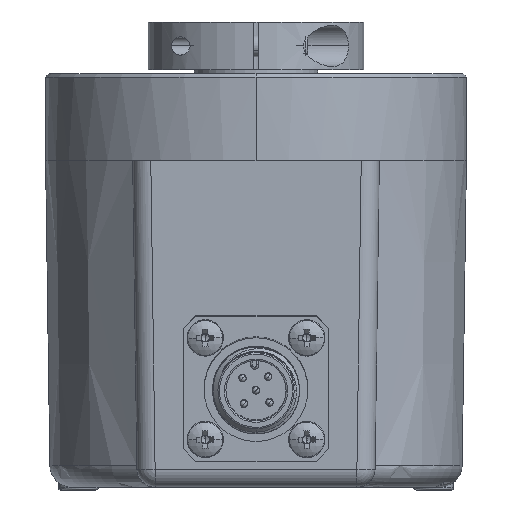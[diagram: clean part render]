
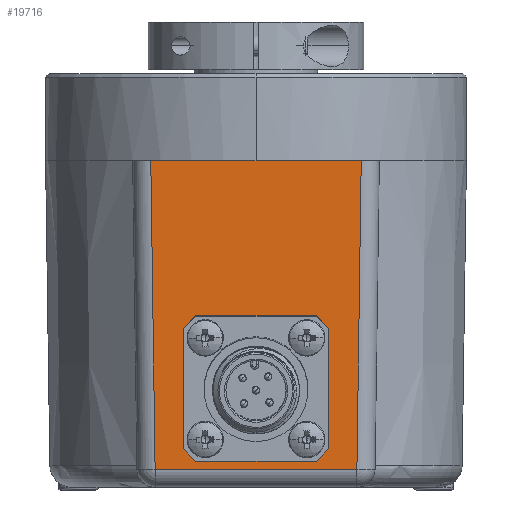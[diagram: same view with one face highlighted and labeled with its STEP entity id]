
A CAD part, front view. The second image highlights one B-rep face of the part: STEP entity #19716.
In plain terms, the highlighted planar face has unit normal (0, -1, -0.014).
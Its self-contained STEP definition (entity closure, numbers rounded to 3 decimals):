
#37 = DIRECTION ( 'NONE',  ( 1., 0., 0. ) ) ;
#128 = CARTESIAN_POINT ( 'NONE',  ( 0., -29., 45. ) ) ;
#439 = EDGE_LOOP ( 'NONE', ( #2445, #11095, #12852, #18333, #12904 ) ) ;
#792 = CARTESIAN_POINT ( 'NONE',  ( 13.906, -28.406, 2.465 ) ) ;
#794 = DIRECTION ( 'NONE',  ( 0.707, -0.01, 0.707 ) ) ;
#1043 = ORIENTED_EDGE ( 'NONE', *, *, #20172, .T. ) ;
#1045 = CARTESIAN_POINT ( 'NONE',  ( 10., -28.446, 5.303 ) ) ;
#1386 = ORIENTED_EDGE ( 'NONE', *, *, #23471, .F. ) ;
#1487 = VECTOR ( 'NONE', #24620, 1000. ) ;
#1782 = CARTESIAN_POINT ( 'NONE',  ( 8.3, -28.701, 23.602 ) ) ;
#1830 = FACE_OUTER_BOUND ( 'NONE', #439, .T. ) ;
#1937 = ORIENTED_EDGE ( 'NONE', *, *, #21678, .F. ) ;
#2445 = ORIENTED_EDGE ( 'NONE', *, *, #13074, .F. ) ;
#2453 = CARTESIAN_POINT ( 'NONE',  ( -14.494, -28.994, 44.56 ) ) ;
#3132 = CARTESIAN_POINT ( 'NONE',  ( 17., -28.406, 2.465 ) ) ;
#3551 = LINE ( 'NONE', #1782, #14294 ) ;
#3634 = ORIENTED_EDGE ( 'NONE', *, *, #23362, .F. ) ;
#3694 = DIRECTION ( 'NONE',  ( 0., -0.014, 1. ) ) ;
#3786 = CARTESIAN_POINT ( 'NONE',  ( 10., -28.446, 5.303 ) ) ;
#3914 = AXIS2_PLACEMENT_3D ( 'NONE', #19315, #5745, #13504 ) ;
#3974 = VERTEX_POINT ( 'NONE', #19939 ) ;
#3996 = VECTOR ( 'NONE', #8913, 1000. ) ;
#4722 = LINE ( 'NONE', #10236, #15638 ) ;
#5185 = VECTOR ( 'NONE', #9125, 1000. ) ;
#5252 = LINE ( 'NONE', #19192, #5185 ) ;
#5523 = LINE ( 'NONE', #20852, #1487 ) ;
#5745 = DIRECTION ( 'NONE',  ( 0., -1., -0.014 ) ) ;
#5850 = FACE_BOUND ( 'NONE', #16768, .T. ) ;
#5891 = DIRECTION ( 'NONE',  ( 1., 0., 0. ) ) ;
#5965 = VECTOR ( 'NONE', #5891, 1000. ) ;
#6253 = VERTEX_POINT ( 'NONE', #128 ) ;
#7311 = VERTEX_POINT ( 'NONE', #1045 ) ;
#7538 = VECTOR ( 'NONE', #794, 1000. ) ;
#7566 = DIRECTION ( 'NONE',  ( -1., 0., 0. ) ) ;
#7586 = LINE ( 'NONE', #21393, #24849 ) ;
#7652 = CARTESIAN_POINT ( 'NONE',  ( -10., -28.446, 5.303 ) ) ;
#7752 = VERTEX_POINT ( 'NONE', #12824 ) ;
#7809 = CARTESIAN_POINT ( 'NONE',  ( -8.3, -28.422, 3.604 ) ) ;
#8490 = DIRECTION ( 'NONE',  ( 0.014, -0.014, 1. ) ) ;
#8656 = VERTEX_POINT ( 'NONE', #20253 ) ;
#8790 = VECTOR ( 'NONE', #21270, 1000. ) ;
#8913 = DIRECTION ( 'NONE',  ( 1., 0., 0. ) ) ;
#9125 = DIRECTION ( 'NONE',  ( -0.707, -0.01, 0.707 ) ) ;
#9635 = CARTESIAN_POINT ( 'NONE',  ( -14.5, -29., 45. ) ) ;
#9674 = DIRECTION ( 'NONE',  ( 1., 0., 0. ) ) ;
#9875 = ORIENTED_EDGE ( 'NONE', *, *, #20910, .T. ) ;
#10236 = CARTESIAN_POINT ( 'NONE',  ( 14.501, -29., 45.035 ) ) ;
#10625 = CARTESIAN_POINT ( 'NONE',  ( 8.3, -28.422, 3.604 ) ) ;
#10629 = EDGE_CURVE ( 'NONE', #3974, #17972, #5252, .T. ) ;
#10940 = EDGE_CURVE ( 'NONE', #17317, #8656, #4722, .T. ) ;
#11065 = EDGE_CURVE ( 'NONE', #7311, #17035, #13440, .T. ) ;
#11095 = ORIENTED_EDGE ( 'NONE', *, *, #16053, .T. ) ;
#11619 = LINE ( 'NONE', #2453, #13527 ) ;
#12588 = CARTESIAN_POINT ( 'NONE',  ( 10., -28.677, 21.902 ) ) ;
#12824 = CARTESIAN_POINT ( 'NONE',  ( -8.3, -28.701, 23.602 ) ) ;
#12852 = ORIENTED_EDGE ( 'NONE', *, *, #23662, .T. ) ;
#12904 = ORIENTED_EDGE ( 'NONE', *, *, #22137, .F. ) ;
#13074 = EDGE_CURVE ( 'NONE', #18107, #6253, #21922, .T. ) ;
#13179 = LINE ( 'NONE', #15574, #5965 ) ;
#13440 = LINE ( 'NONE', #3786, #24458 ) ;
#13504 = DIRECTION ( 'NONE',  ( 0., -0.014, 1. ) ) ;
#13527 = VECTOR ( 'NONE', #19807, 1000. ) ;
#13647 = VERTEX_POINT ( 'NONE', #16113 ) ;
#13668 = VERTEX_POINT ( 'NONE', #18251 ) ;
#14294 = VECTOR ( 'NONE', #7566, 1000. ) ;
#15122 = CARTESIAN_POINT ( 'NONE',  ( -10., -28.677, 21.902 ) ) ;
#15574 = CARTESIAN_POINT ( 'NONE',  ( 17., -29., 45. ) ) ;
#15638 = VECTOR ( 'NONE', #8490, 1000. ) ;
#16053 = EDGE_CURVE ( 'NONE', #18107, #13668, #11619, .T. ) ;
#16113 = CARTESIAN_POINT ( 'NONE',  ( -10., -28.677, 21.902 ) ) ;
#16139 = CARTESIAN_POINT ( 'NONE',  ( -10., -28.677, 21.902 ) ) ;
#16768 = EDGE_LOOP ( 'NONE', ( #23409, #9875, #1386, #17805, #1937, #19607, #3634, #1043 ) ) ;
#17035 = VERTEX_POINT ( 'NONE', #10625 ) ;
#17188 = PLANE ( 'NONE',  #3914 ) ;
#17317 = VERTEX_POINT ( 'NONE', #792 ) ;
#17791 = VECTOR ( 'NONE', #37, 1000. ) ;
#17805 = ORIENTED_EDGE ( 'NONE', *, *, #11065, .T. ) ;
#17972 = VERTEX_POINT ( 'NONE', #7652 ) ;
#18107 = VERTEX_POINT ( 'NONE', #9635 ) ;
#18154 = CARTESIAN_POINT ( 'NONE',  ( 8.3, -28.701, 23.602 ) ) ;
#18193 = CARTESIAN_POINT ( 'NONE',  ( 17., -29., 45. ) ) ;
#18251 = CARTESIAN_POINT ( 'NONE',  ( -13.906, -28.406, 2.465 ) ) ;
#18333 = ORIENTED_EDGE ( 'NONE', *, *, #10940, .T. ) ;
#18647 = EDGE_CURVE ( 'NONE', #24372, #7752, #3551, .T. ) ;
#19014 = LINE ( 'NONE', #7809, #19611 ) ;
#19192 = CARTESIAN_POINT ( 'NONE',  ( -8.3, -28.422, 3.604 ) ) ;
#19315 = CARTESIAN_POINT ( 'NONE',  ( 17., -29., 45. ) ) ;
#19328 = VERTEX_POINT ( 'NONE', #12588 ) ;
#19403 = LINE ( 'NONE', #15122, #8790 ) ;
#19607 = ORIENTED_EDGE ( 'NONE', *, *, #10629, .T. ) ;
#19611 = VECTOR ( 'NONE', #9674, 1000. ) ;
#19716 = ADVANCED_FACE ( 'NONE', ( #5850, #1830 ), #17188, .T. ) ;
#19786 = LINE ( 'NONE', #16139, #7538 ) ;
#19807 = DIRECTION ( 'NONE',  ( 0.014, 0.014, -1. ) ) ;
#19939 = CARTESIAN_POINT ( 'NONE',  ( -8.3, -28.422, 3.604 ) ) ;
#20172 = EDGE_CURVE ( 'NONE', #13647, #7752, #19786, .T. ) ;
#20253 = CARTESIAN_POINT ( 'NONE',  ( 14.5, -29., 45. ) ) ;
#20852 = CARTESIAN_POINT ( 'NONE',  ( 8.3, -28.701, 23.602 ) ) ;
#20910 = EDGE_CURVE ( 'NONE', #24372, #19328, #5523, .T. ) ;
#21270 = DIRECTION ( 'NONE',  ( 0., 0.014, -1. ) ) ;
#21393 = CARTESIAN_POINT ( 'NONE',  ( 10., -28.446, 5.303 ) ) ;
#21678 = EDGE_CURVE ( 'NONE', #3974, #17035, #19014, .T. ) ;
#21922 = LINE ( 'NONE', #18193, #17791 ) ;
#22137 = EDGE_CURVE ( 'NONE', #6253, #8656, #13179, .T. ) ;
#23362 = EDGE_CURVE ( 'NONE', #13647, #17972, #19403, .T. ) ;
#23409 = ORIENTED_EDGE ( 'NONE', *, *, #18647, .F. ) ;
#23471 = EDGE_CURVE ( 'NONE', #7311, #19328, #7586, .T. ) ;
#23662 = EDGE_CURVE ( 'NONE', #13668, #17317, #24114, .T. ) ;
#24114 = LINE ( 'NONE', #3132, #3996 ) ;
#24372 = VERTEX_POINT ( 'NONE', #18154 ) ;
#24458 = VECTOR ( 'NONE', #24767, 1000. ) ;
#24620 = DIRECTION ( 'NONE',  ( 0.707, 0.01, -0.707 ) ) ;
#24767 = DIRECTION ( 'NONE',  ( -0.707, 0.01, -0.707 ) ) ;
#24849 = VECTOR ( 'NONE', #3694, 1000. ) ;
